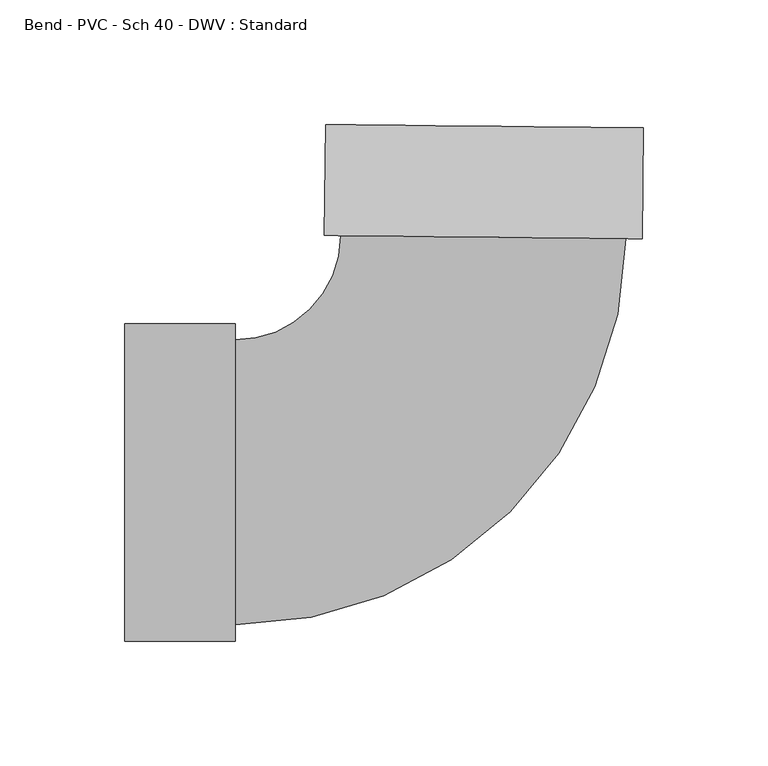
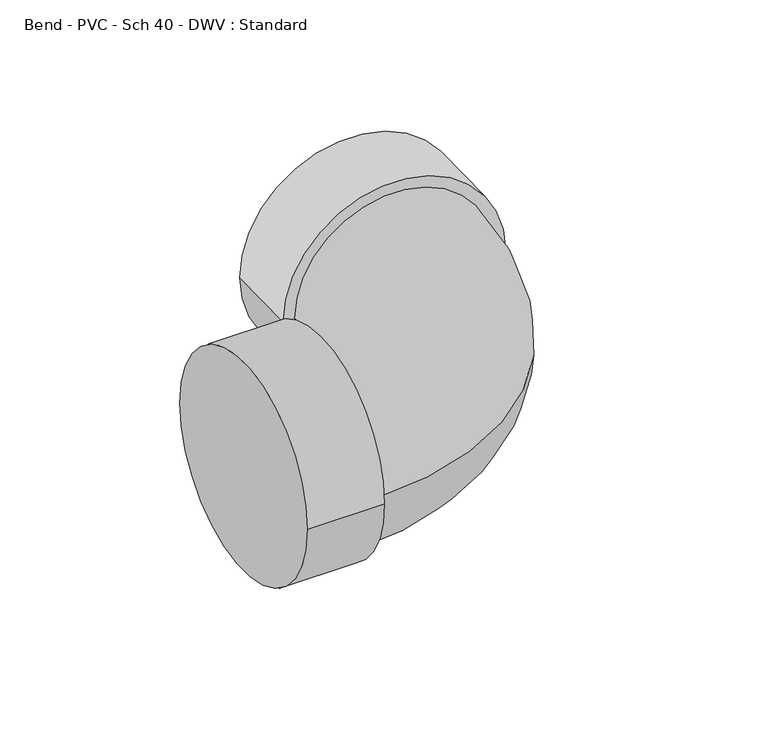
"""IFC4 building model written with IfcOpenShell, lengths in millimetres: pipe fitting geometry, Bend - PVC - Sch 40 - DWV : Standard."""

import ifcopenshell
import ifcopenshell.guid

model = None  # the IFC model being written
_history = None  # IfcOwnerHistory: only IFC2X3 demands one
_inside = {}  # id of a spatial element -> (the spatial element, [elements in it])
_under = {}  # id of a project, library or spatial element -> (it, [spatial elements below it])
_declared = {}  # id of a project -> (the project, [libraries it declares])
_typed = {}  # id of a type object -> (the type object, [elements of that type])
_made_of = {}  # id of a material, layer set ... -> (it, [elements and type objects made of it])


def new_model(schema):
    """Start an empty IFC model of exactly this schema.

    Asked for "IFC4X3", IfcOpenShell would pick the latest addendum, in which some entities
    have other attributes; the version numbers below select the first issue.
    IFC2X3 requires an IfcOwnerHistory on every rooted entity: one is made here for all.
    """
    global model, _history
    if schema == "IFC4X3":
        model = ifcopenshell.file(schema_version=(4, 3, 0, 0))
    else:
        model = ifcopenshell.file(schema=schema)
    _inside.clear()
    _under.clear()
    _declared.clear()
    _typed.clear()
    _made_of.clear()
    _history = None
    if model.schema == "IFC2X3":
        org = make("IfcOrganization", Name="unknown")
        user = make(
            "IfcPersonAndOrganization",
            ThePerson=make("IfcPerson", FamilyName="unknown"),
            TheOrganization=org,
        )
        app = make(
            "IfcApplication",
            ApplicationDeveloper=org,
            Version="unknown",
            ApplicationFullName="unknown",
            ApplicationIdentifier="unknown",
        )
        _history = make(
            "IfcOwnerHistory",
            OwningUser=user,
            OwningApplication=app,
            ChangeAction="ADDED",
            CreationDate=0,
        )
    return model


def make(cls, **values):
    """One entity of the class cls with the attributes given. An attribute that is None is left unset."""
    return model.create_entity(
        cls, **{name: value for name, value in values.items() if value is not None}
    )


def rooted(cls, **values):
    """An entity with a GlobalId (a new one), such as an element, a storey or a relation."""
    return make(cls, GlobalId=ifcopenshell.guid.new(), OwnerHistory=_history, **values)


def si_unit(unit_type, name, prefix=None):
    """IfcSIUnit, for example si_unit("LENGTHUNIT", "METRE", prefix="MILLI")."""
    return make("IfcSIUnit", UnitType=unit_type, Prefix=prefix, Name=name)


def assignment(units):
    """IfcUnitAssignment: the units of a project."""
    return None if units is None else make("IfcUnitAssignment", Units=units)


def point(xyz):
    """IfcCartesianPoint."""
    return None if xyz is None else make("IfcCartesianPoint", Coordinates=xyz)


def direction(xyz):
    """IfcDirection."""
    return None if xyz is None else make("IfcDirection", DirectionRatios=xyz)


def frame(location, z_axis=None, x_axis=None):
    """IfcAxis2Placement3D, a coordinate frame: its origin and axes. An axis left out is left unset."""
    return make(
        "IfcAxis2Placement3D",
        Location=point(location),
        Axis=direction(z_axis),
        RefDirection=direction(x_axis),
    )


def origin():
    """The frame at (0, 0, 0) with its axes left unset."""
    return frame((0.0, 0.0, 0.0))


def place(relative_to, where):
    """IfcLocalPlacement: puts the frame where relative to a parent placement (None: the world)."""
    return make(
        "IfcLocalPlacement", PlacementRelTo=relative_to, RelativePlacement=where
    )


def context(
    kind, dimensions, precision=None, world=None, true_north=None, identifier=None
):
    """IfcGeometricRepresentationContext, for example the 3D "Model" context."""
    return make(
        "IfcGeometricRepresentationContext",
        ContextIdentifier=identifier,
        ContextType=kind,
        CoordinateSpaceDimension=dimensions,
        Precision=precision,
        WorldCoordinateSystem=world,
        TrueNorth=true_north,
    )


def project(units=None, contexts=None):
    """IfcProject with its units and contexts."""
    return rooted(
        "IfcProject",
        Name="project",
        RepresentationContexts=contexts,
        UnitsInContext=assignment(units),
    )


def spatial(cls, under=None, at=None, **own):
    """A site, building, storey or space (cls), placed at a placement, below another one or the project."""
    s = rooted(cls, ObjectPlacement=at, **own)
    if under is not None:
        _under.setdefault(under.id(), (under, []))[1].append(s)
    return s


def circle_curve(where, radius):
    """IfcCircle in the frame where."""
    return make("IfcCircle", Position=where, Radius=radius)


def ellipse_curve(where, semi_axis1, semi_axis2):
    """IfcEllipse in the frame where."""
    return make(
        "IfcEllipse", Position=where, SemiAxis1=semi_axis1, SemiAxis2=semi_axis2
    )


def trimmed(basis, trim1, trim2, sense, master):
    """IfcTrimmedCurve: the piece of a basis curve between two trims."""
    return make(
        "IfcTrimmedCurve",
        BasisCurve=basis,
        Trim1=trim1,
        Trim2=trim2,
        SenseAgreement=sense,
        MasterRepresentation=master,
    )


def shape(context_of_items, identifier, shape_type, items):
    """IfcShapeRepresentation: the items that make up one representation, for example the "Body"."""
    return make(
        "IfcShapeRepresentation",
        ContextOfItems=context_of_items,
        RepresentationIdentifier=identifier,
        RepresentationType=shape_type,
        Items=items,
    )


def source(mapping_origin, context_of_items, identifier, shape_type, items):
    """IfcRepresentationMap: a shape defined once, which mapped items show again and again."""
    return make(
        "IfcRepresentationMap",
        MappingOrigin=mapping_origin,
        MappedRepresentation=shape(context_of_items, identifier, shape_type, items),
    )


def transform(
    local_origin,
    x_axis=None,
    y_axis=None,
    z_axis=None,
    scale=None,
    scale2=None,
    scale3=None,
    uniform=True,
):
    """IfcCartesianTransformationOperator3D, or its non-uniform kind. x_axis, y_axis, z_axis: its Axis1, 2, 3."""
    if uniform:
        return make(
            "IfcCartesianTransformationOperator3D",
            Axis1=direction(x_axis),
            Axis2=direction(y_axis),
            LocalOrigin=point(local_origin),
            Scale=scale,
            Axis3=direction(z_axis),
        )
    return make(
        "IfcCartesianTransformationOperator3DnonUniform",
        Axis1=direction(x_axis),
        Axis2=direction(y_axis),
        LocalOrigin=point(local_origin),
        Scale=scale,
        Axis3=direction(z_axis),
        Scale2=scale2,
        Scale3=scale3,
    )


def mapped(mapping_source, mapping_target):
    """IfcMappedItem: shows the shape of a source again, moved by a transform."""
    return make(
        "IfcMappedItem", MappingSource=mapping_source, MappingTarget=mapping_target
    )


def made_of(thing, what):
    """Note that an element or type object is made of a material, layer set ...; save() writes the relation."""
    if what is not None:
        _made_of.setdefault(what.id(), (what, []))[1].append(thing)
    return thing


def element(
    cls,
    number,
    at=None,
    inside=None,
    cuts=None,
    type_object=None,
    material=None,
    context=None,
    identifier="Body",
    shape_type=None,
    held_by="IfcProductDefinitionShape",
    body=None,
    shapes=None,
    **own,
):
    """One element of the class cls, such as IfcWall. Its Tag is "e" and its number.

    at: its placement. inside: the storey or other place that contains it. cuts: it is an
    opening in that element (IfcRelVoidsElement). A single representation is given by context,
    identifier, shape_type and body (its items); several are given by shapes. held_by: the class
    of the entity that holds the representations. save() writes the other relations.
    """
    e = rooted(cls, Tag="e%d" % number, ObjectPlacement=at, **own)
    if body is not None:
        shapes = [shape(context, identifier, shape_type, body)]
    if shapes is not None:
        e.Representation = make(held_by, Representations=shapes)
    if inside is not None:
        _inside.setdefault(inside.id(), (inside, []))[1].append(e)
    if cuts is not None:
        rooted(
            "IfcRelVoidsElement", RelatingBuildingElement=cuts, RelatedOpeningElement=e
        )
    if type_object is not None:
        _typed.setdefault(type_object.id(), (type_object, []))[1].append(e)
    return made_of(e, material)


def aggregate(whole, parts):
    """IfcRelAggregates: a whole, such as a stair, and the parts it consists of."""
    return rooted("IfcRelAggregates", RelatingObject=whole, RelatedObjects=parts)


def save(model, path):
    """Write the relations noted so far, then the file.

    IfcRelAggregates (storeys below a building ...), IfcRelContainedInSpatialStructure (elements
    in a storey), IfcRelDefinesByType, IfcRelAssociatesMaterial and IfcRelDeclares: one each for
    every whole, place, type object, material and project.
    """
    for whole, parts in _under.values():
        aggregate(whole, parts)
    for where, things in _inside.values():
        rooted(
            "IfcRelContainedInSpatialStructure",
            RelatedElements=things,
            RelatingStructure=where,
        )
    for kind, things in _typed.values():
        rooted("IfcRelDefinesByType", RelatedObjects=things, RelatingType=kind)
    for what, things in _made_of.values():
        rooted("IfcRelAssociatesMaterial", RelatedObjects=things, RelatingMaterial=what)
    for by, libraries in _declared.values():
        rooted("IfcRelDeclares", RelatingContext=by, RelatedDefinitions=libraries)
    model.write(path)


def plane_surface(at):
    """IfcPlane: the flat surface through the origin of the frame at, square to its z axis."""
    return make("IfcPlane", Position=at)


def cylinder_surface(at, radius):
    """IfcCylindricalSurface: all points at the distance radius from the z axis of the frame at."""
    return make("IfcCylindricalSurface", Position=at, Radius=radius)


def revolved_surface(curve, axis_point, axis_direction):
    """IfcSurfaceOfRevolution: the curve turned about the line through axis_point along axis_direction."""
    return make(
        "IfcSurfaceOfRevolution",
        SweptCurve=make("IfcArbitraryOpenProfileDef", ProfileType="CURVE", Curve=curve),
        AxisPosition=make("IfcAxis1Placement", Location=point(axis_point), Axis=direction(axis_direction)),
    )


def advanced_brep(points, edges, surfaces, faces):
    """IfcAdvancedBrep: a solid bounded by faces that lie on surfaces and meet in shared edges.

    An edge is (start, end): straight between two places in points (the first is 0);
    or (start, end, curve); or (start, end, curve, False) where it runs against its curve.
    A face is (place in surfaces, loops), or (place, loops, False) where it looks against
    its surface's normal. A loop lists edges by number (the first is 1), with a minus sign
    where the edge is run from its end to its start. The first loop is the outer one.
    """
    corners = [point(p) for p in points]
    vertices = [make("IfcVertexPoint", VertexGeometry=c) for c in corners]
    made = []
    for start, end, *more in edges:
        made.append(
            make(
                "IfcEdgeCurve",
                EdgeStart=vertices[start],
                EdgeEnd=vertices[end],
                EdgeGeometry=more[0] if more else make("IfcPolyline", Points=[corners[start], corners[end]]),
                SameSense=more[1] if len(more) > 1 else True,
            )
        )
    hull = []
    for where, loops, *sense in faces:
        bounds = []
        for j, loop in enumerate(loops):
            ring = [make("IfcOrientedEdge", EdgeElement=made[abs(k) - 1], Orientation=k > 0) for k in loop]
            bounds.append(
                make(
                    "IfcFaceOuterBound" if j == 0 else "IfcFaceBound",
                    Bound=make("IfcEdgeLoop", EdgeList=ring),
                    Orientation=True,
                )
            )
        hull.append(make("IfcAdvancedFace", Bounds=bounds, FaceSurface=surfaces[where], SameSense=sense[0] if sense else True))
    return make("IfcAdvancedBrep", Outer=make("IfcClosedShell", CfsFaces=hull))


def bend_pvc_sch_40_dwv_standard_1d57d0cc(model_context):
    return source(origin(), model_context, "Body", "AdvancedBrep", [
        advanced_brep(
        [(-142.875, -63.754, 0.0), (-142.875, 63.754, 0.0), (-98.425, -63.754, 0.0), (-98.425, 63.754, 0.0), (-98.425, -57.15, 0.0), (-98.425, 57.15, 0.0), (-56.1210318, 99.0153166, 0.0), (58.1727596, 97.8239908, 0.0), (64.7764008, 97.7551586, 0.0), (-62.7246731, 99.0841487, 0.0), (65.2396942, 142.2027441, 0.0), (-62.2613797, 143.5317343, 0.0)],
        [
            (0, 1, circle_curve(frame((-142.875, 0.0, 0.0), z_axis=(-1.0, 0.0, 0.0), x_axis=(0.0, 1.0, 0.0)), 63.754)),
            (1, 0, circle_curve(frame((-142.875, 0.0, 0.0), z_axis=(-1.0, 0.0, 0.0), x_axis=(0.0, 1.0, 0.0)), 63.754)),
            (2, 3, circle_curve(frame((-98.425, 0.0, 0.0), z_axis=(1.0, 0.0, 0.0), x_axis=(0.0, 1.0, 0.0)), 63.754)),
            (3, 2, circle_curve(frame((-98.425, 0.0, 0.0), z_axis=(1.0, 0.0, 0.0), x_axis=(0.0, 1.0, 0.0)), 63.754)),
            (4, 5, circle_curve(frame((-98.425, 0.0, 0.0), z_axis=(-1.0, 0.0, 0.0), x_axis=(0.0, 1.0, 0.0)), 57.15)),
            (5, 4, circle_curve(frame((-98.425, 0.0, 0.0), z_axis=(-1.0, 0.0, 0.0), x_axis=(0.0, 1.0, 0.0)), 57.15)),
            (0, 2),
            (3, 1),
            (6, 5, circle_curve(frame((-98.425, 99.4562662, 0.0), z_axis=(0.0, 0.0, -1.0), x_axis=(0.0, -1.0, 0.0)), 42.3062662)),
            (4, 7, circle_curve(frame((-98.425, 99.4562662, 0.0), z_axis=(0.0, 0.0, 1.0), x_axis=(0.0, -1.0, 0.0)), 156.6062662)),
            (7, 6, circle_curve(frame((1.0258639, 98.4196537, 0.0), z_axis=(-0.010422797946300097, -0.9999456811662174, 0.0), x_axis=(-0.9999456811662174, 0.010422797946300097, 0.0)), 57.15)),
            (6, 7, circle_curve(frame((1.0258639, 98.4196537, 0.0), z_axis=(-0.010422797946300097, -0.9999456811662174, 0.0), x_axis=(-0.9999456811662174, 0.010422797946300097, 0.0)), 57.15)),
            (8, 9, circle_curve(frame((1.0258639, 98.4196537, 0.0), z_axis=(-0.010422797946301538, -0.9999456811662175, 0.0), x_axis=(-0.9999456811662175, 0.010422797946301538, 0.0)), 63.754)),
            (9, 8, circle_curve(frame((1.0258639, 98.4196537, 0.0), z_axis=(-0.010422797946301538, -0.9999456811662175, 0.0), x_axis=(-0.9999456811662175, 0.010422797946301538, 0.0)), 63.754)),
            (10, 11, circle_curve(frame((1.4891573, 142.8672392, 0.0), z_axis=(0.010422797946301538, 0.9999456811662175, 0.0), x_axis=(-0.9999456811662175, 0.010422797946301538, 0.0)), 63.754)),
            (11, 10, circle_curve(frame((1.4891573, 142.8672392, 0.0), z_axis=(0.010422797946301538, 0.9999456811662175, 0.0), x_axis=(-0.9999456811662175, 0.010422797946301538, 0.0)), 63.754)),
            (8, 10),
            (11, 9),
        ],
        [
            plane_surface(frame((-142.875, 0.0, 0.0), z_axis=(-1.0, 0.0, 0.0), x_axis=(0.0, 0.0, 1.0))),
            plane_surface(frame((-98.425, 0.0, 0.0), z_axis=(1.0, 0.0, 0.0), x_axis=(0.0, 0.0, 1.0))),
            cylinder_surface(frame((-142.875, 0.0, 0.0), z_axis=(-1.0, 0.0, 0.0), x_axis=(0.0, 1.0, 0.0)), 63.754),
            revolved_surface(trimmed(ellipse_curve(frame((-98.425, 0.0, 0.0), z_axis=(-1.0, 0.0, 0.0), x_axis=(0.0, 1.0, 0.0)), 57.15, 57.15), [point((-98.425, -57.15, 0.0))], [point((-98.425, 57.15, 0.0))], True, "CARTESIAN"), (-98.425, 99.4562662, 0.0), (0.0, 0.0, 1.0)),
            revolved_surface(trimmed(ellipse_curve(frame((-98.425, 0.0, 0.0), z_axis=(-1.0, 0.0, 0.0), x_axis=(0.0, 1.0, 0.0)), 57.15, 57.15), [point((-98.425, 57.15, 0.0))], [point((-98.425, -57.15, 0.0))], True, "CARTESIAN"), (-98.425, 99.4562662, 0.0), (0.0, 0.0, 1.0)),
            plane_surface(frame((1.0258639, 98.4196537, 0.0), z_axis=(-0.010422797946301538, -0.9999456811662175, 0.0), x_axis=(0.0, 0.0, 1.0))),
            plane_surface(frame((1.4891573, 142.8672392, 0.0), z_axis=(0.010422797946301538, 0.9999456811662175, 0.0), x_axis=(0.0, 0.0, 1.0))),
            cylinder_surface(frame((1.0258639, 98.4196537, 0.0), z_axis=(-0.010422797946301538, -0.9999456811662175, 0.0), x_axis=(-0.9999456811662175, 0.010422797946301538, 0.0)), 63.754),
        ],
        [
            (0, [[1, 2]]),
            (1, [[3, 4], [5, 6]]),
            (2, [[-1, 7, -4, 8]]),
            (2, [[-2, -8, -3, -7]]),
            (3, [[9, -5, 10, 11]]),
            (4, [[-9, 12, -10, -6]]),
            (5, [[13, 14], [-11, -12]]),
            (6, [[15, 16]]),
            (7, [[-13, 17, -16, 18]]),
            (7, [[-14, -18, -15, -17]]),
        ],
    ),
    ])


if __name__ == "__main__":
    model = new_model("IFC4")
    model_context = context("Model", 3, world=origin())
    ifc_project = project(units=[si_unit("LENGTHUNIT", "METRE", prefix="MILLI")], contexts=[model_context])
    site = spatial("IfcSite", under=ifc_project)
    building = spatial("IfcBuilding", under=site)
    placement = place(None, origin())
    bend_pvc_sch_40_dwv_standard_shape = bend_pvc_sch_40_dwv_standard_1d57d0cc(model_context)
    element("IfcPipeFitting", 1, ObjectType="Bend - PVC - Sch 40 - DWV : Standard", at=placement, inside=building, context=model_context, shape_type="MappedRepresentation", body=[
        mapped(bend_pvc_sch_40_dwv_standard_shape, transform((0.0, 0.0, 0.0), x_axis=(1.0, 0.0, 0.0), y_axis=(0.0, 1.0, 0.0), z_axis=(0.0, 0.0, 1.0))),
    ])
    save(model, "model.ifc")
